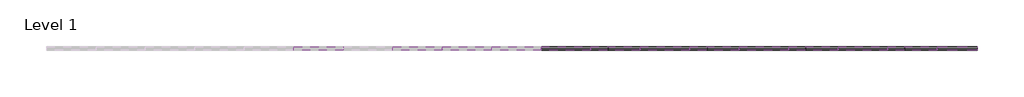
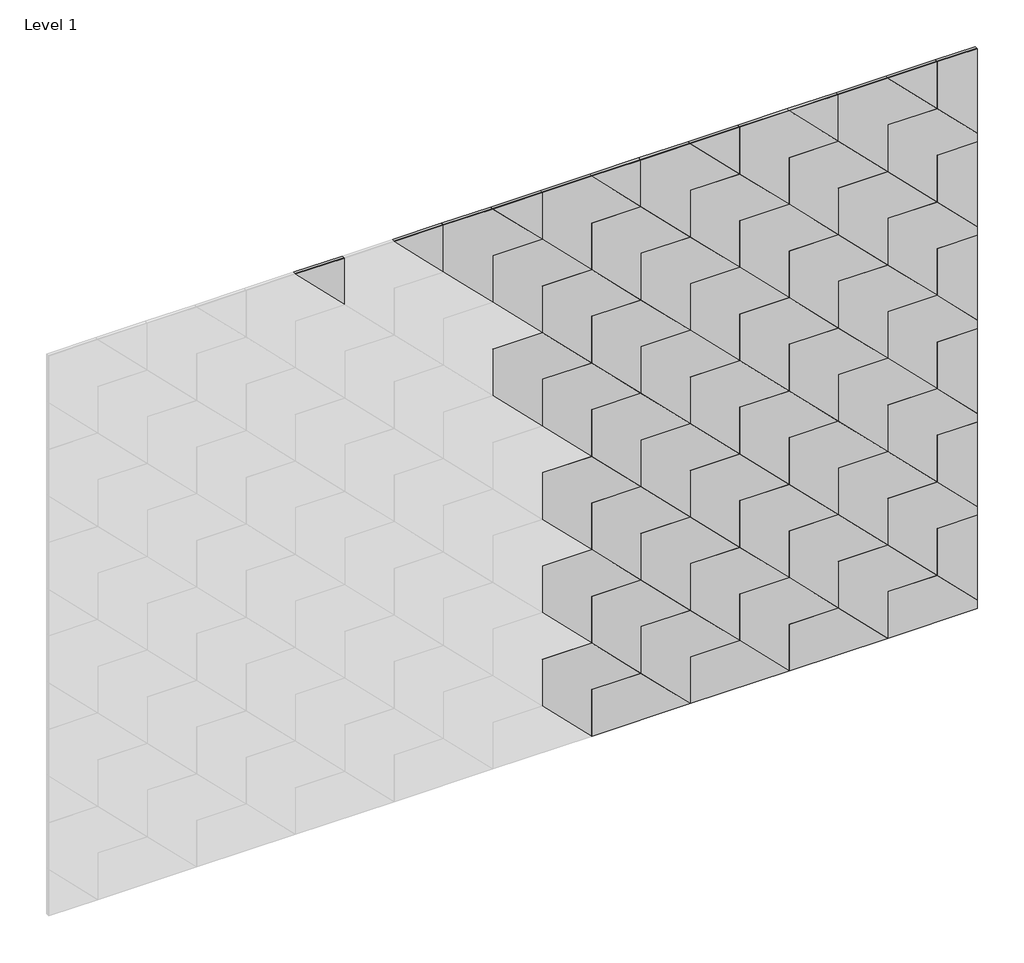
# One storey, part 2 of 2: 64 proxies.
"""IFC4 building model written with IfcOpenShell, lengths in millimetres."""

from ifc_helpers import new_model, si_unit, origin, place, context, project, spatial, transform, mapped, element, save
from components import dart_block_31c125ed, dart_block_a07508b9, dart_block_73d4f8a3, dart_block_11f7d1ca, dart_block_5e9ce8aa, dart_block_3be2393e

model = new_model("IFC4")

# Units and contexts
model_context = context("Model", 3, world=origin())
ifc_project = project(units=[si_unit("LENGTHUNIT", "METRE", prefix="MILLI")], contexts=[model_context])

# Site, building, storey
site = spatial("IfcSite", under=ifc_project)
building = spatial("IfcBuilding", under=site)
storey = spatial("IfcBuildingStorey", under=building, Name="Level 1", Elevation=0.0)

# Proxies
placement = place(None, origin())
dart_block_shape = dart_block_31c125ed(model_context)
element("IfcBuildingElementProxy", 1, Name="FilzFelt_Dart_Block : Dart Block", ObjectType="FilzFelt_Dart_Block : Dart Block", at=placement, inside=storey, context=model_context, shape_type="MappedRepresentation", body=[
    mapped(dart_block_shape, transform((7157.3428244, -10315.1339335, 769.244934), x_axis=(0.7071067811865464, 0.0, 0.7071067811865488), y_axis=(-0.7071067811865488, 0.0, 0.7071067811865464), z_axis=(0.0, -1.0, 0.0))),
])
element("IfcBuildingElementProxy", 2, Name="FilzFelt_Dart_Block : Dart Block", ObjectType="FilzFelt_Dart_Block : Dart Block", at=placement, inside=storey, context=model_context, shape_type="MappedRepresentation", body=[
    mapped(dart_block_shape, transform((7157.3428244, -10315.1339335, 1128.4551788), x_axis=(0.7071067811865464, 0.0, 0.7071067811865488), y_axis=(-0.7071067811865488, 0.0, 0.7071067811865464), z_axis=(0.0, -1.0, 0.0))),
])
element("IfcBuildingElementProxy", 3, Name="FilzFelt_Dart_Block : Dart Block", ObjectType="FilzFelt_Dart_Block : Dart Block", at=placement, inside=storey, context=model_context, shape_type="MappedRepresentation", body=[
    mapped(dart_block_shape, transform((7516.5530693, -10315.1339335, 769.244934), x_axis=(0.7071067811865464, 0.0, 0.7071067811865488), y_axis=(-0.7071067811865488, 0.0, 0.7071067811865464), z_axis=(0.0, -1.0, 0.0))),
])
element("IfcBuildingElementProxy", 4, Name="FilzFelt_Dart_Block : Dart Block", ObjectType="FilzFelt_Dart_Block : Dart Block", at=placement, inside=storey, context=model_context, shape_type="MappedRepresentation", body=[
    mapped(dart_block_shape, transform((7157.3428244, -10315.1339335, 1487.6654237), x_axis=(0.7071067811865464, 0.0, 0.7071067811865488), y_axis=(-0.7071067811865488, 0.0, 0.7071067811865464), z_axis=(0.0, -1.0, 0.0))),
])
element("IfcBuildingElementProxy", 5, Name="FilzFelt_Dart_Block : Dart Block", ObjectType="FilzFelt_Dart_Block : Dart Block", at=placement, inside=storey, context=model_context, shape_type="MappedRepresentation", body=[
    mapped(dart_block_shape, transform((7516.5530693, -10315.1339335, 1128.4551788), x_axis=(0.7071067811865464, 0.0, 0.7071067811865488), y_axis=(-0.7071067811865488, 0.0, 0.7071067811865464), z_axis=(0.0, -1.0, 0.0))),
])
element("IfcBuildingElementProxy", 6, Name="FilzFelt_Dart_Block : Dart Block", ObjectType="FilzFelt_Dart_Block : Dart Block", at=placement, inside=storey, context=model_context, shape_type="MappedRepresentation", body=[
    mapped(dart_block_shape, transform((7875.7633141, -10315.1339335, 769.244934), x_axis=(0.7071067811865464, 0.0, 0.7071067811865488), y_axis=(-0.7071067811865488, 0.0, 0.7071067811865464), z_axis=(0.0, -1.0, 0.0))),
])
element("IfcBuildingElementProxy", 7, Name="FilzFelt_Dart_Block : Dart Block", ObjectType="FilzFelt_Dart_Block : Dart Block", at=placement, inside=storey, context=model_context, shape_type="MappedRepresentation", body=[
    mapped(dart_block_shape, transform((7157.3428244, -10315.1339335, 1846.8756685), x_axis=(0.7071067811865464, 0.0, 0.7071067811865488), y_axis=(-0.7071067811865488, 0.0, 0.7071067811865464), z_axis=(0.0, -1.0, 0.0))),
])
element("IfcBuildingElementProxy", 8, Name="FilzFelt_Dart_Block : Dart Block", ObjectType="FilzFelt_Dart_Block : Dart Block", at=placement, inside=storey, context=model_context, shape_type="MappedRepresentation", body=[
    mapped(dart_block_shape, transform((7516.5530693, -10315.1339335, 1487.6654237), x_axis=(0.7071067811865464, 0.0, 0.7071067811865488), y_axis=(-0.7071067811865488, 0.0, 0.7071067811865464), z_axis=(0.0, -1.0, 0.0))),
])
element("IfcBuildingElementProxy", 9, Name="FilzFelt_Dart_Block : Dart Block", ObjectType="FilzFelt_Dart_Block : Dart Block", at=placement, inside=storey, context=model_context, shape_type="MappedRepresentation", body=[
    mapped(dart_block_shape, transform((7875.7633141, -10315.1339335, 1128.4551788), x_axis=(0.7071067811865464, 0.0, 0.7071067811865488), y_axis=(-0.7071067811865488, 0.0, 0.7071067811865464), z_axis=(0.0, -1.0, 0.0))),
])
element("IfcBuildingElementProxy", 10, Name="FilzFelt_Dart_Block : Dart Block", ObjectType="FilzFelt_Dart_Block : Dart Block", at=placement, inside=storey, context=model_context, shape_type="MappedRepresentation", body=[
    mapped(dart_block_shape, transform((8234.973559, -10315.1339335, 769.244934), x_axis=(0.7071067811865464, 0.0, 0.7071067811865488), y_axis=(-0.7071067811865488, 0.0, 0.7071067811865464), z_axis=(0.0, -1.0, 0.0))),
])
element("IfcBuildingElementProxy", 11, Name="FilzFelt_Dart_Block : Dart Block", ObjectType="FilzFelt_Dart_Block : Dart Block", at=placement, inside=storey, context=model_context, shape_type="MappedRepresentation", body=[
    mapped(dart_block_shape, transform((6798.1325796, -10315.1339335, 2565.2961582), x_axis=(0.7071067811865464, 0.0, 0.7071067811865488), y_axis=(-0.7071067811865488, 0.0, 0.7071067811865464), z_axis=(0.0, -1.0, 0.0))),
])
element("IfcBuildingElementProxy", 12, Name="FilzFelt_Dart_Block : Dart Block", ObjectType="FilzFelt_Dart_Block : Dart Block", at=placement, inside=storey, context=model_context, shape_type="MappedRepresentation", body=[
    mapped(dart_block_shape, transform((7157.3428244, -10315.1339335, 2206.0859133), x_axis=(0.7071067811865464, 0.0, 0.7071067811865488), y_axis=(-0.7071067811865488, 0.0, 0.7071067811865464), z_axis=(0.0, -1.0, 0.0))),
])
element("IfcBuildingElementProxy", 13, Name="FilzFelt_Dart_Block : Dart Block", ObjectType="FilzFelt_Dart_Block : Dart Block", at=placement, inside=storey, context=model_context, shape_type="MappedRepresentation", body=[
    mapped(dart_block_shape, transform((7516.5530693, -10315.1339335, 1846.8756685), x_axis=(0.7071067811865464, 0.0, 0.7071067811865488), y_axis=(-0.7071067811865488, 0.0, 0.7071067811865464), z_axis=(0.0, -1.0, 0.0))),
])
element("IfcBuildingElementProxy", 14, Name="FilzFelt_Dart_Block : Dart Block", ObjectType="FilzFelt_Dart_Block : Dart Block", at=placement, inside=storey, context=model_context, shape_type="MappedRepresentation", body=[
    mapped(dart_block_shape, transform((7875.7633141, -10315.1339335, 1487.6654237), x_axis=(0.7071067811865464, 0.0, 0.7071067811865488), y_axis=(-0.7071067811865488, 0.0, 0.7071067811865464), z_axis=(0.0, -1.0, 0.0))),
])
element("IfcBuildingElementProxy", 15, Name="FilzFelt_Dart_Block : Dart Block", ObjectType="FilzFelt_Dart_Block : Dart Block", at=placement, inside=storey, context=model_context, shape_type="MappedRepresentation", body=[
    mapped(dart_block_shape, transform((8234.973559, -10315.1339335, 1128.4551788), x_axis=(0.7071067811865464, 0.0, 0.7071067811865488), y_axis=(-0.7071067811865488, 0.0, 0.7071067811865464), z_axis=(0.0, -1.0, 0.0))),
])
element("IfcBuildingElementProxy", 16, Name="FilzFelt_Dart_Block : Dart Block", ObjectType="FilzFelt_Dart_Block : Dart Block", at=placement, inside=storey, context=model_context, shape_type="MappedRepresentation", body=[
    mapped(dart_block_shape, transform((7157.3428244, -10315.1339335, 2565.2961582), x_axis=(0.7071067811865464, 0.0, 0.7071067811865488), y_axis=(-0.7071067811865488, 0.0, 0.7071067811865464), z_axis=(0.0, -1.0, 0.0))),
])
element("IfcBuildingElementProxy", 17, Name="FilzFelt_Dart_Block : Dart Block", ObjectType="FilzFelt_Dart_Block : Dart Block", at=placement, inside=storey, context=model_context, shape_type="MappedRepresentation", body=[
    mapped(dart_block_shape, transform((7516.5530693, -10315.1339335, 2206.0859133), x_axis=(0.7071067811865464, 0.0, 0.7071067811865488), y_axis=(-0.7071067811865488, 0.0, 0.7071067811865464), z_axis=(0.0, -1.0, 0.0))),
])
element("IfcBuildingElementProxy", 18, Name="FilzFelt_Dart_Block : Dart Block", ObjectType="FilzFelt_Dart_Block : Dart Block", at=placement, inside=storey, context=model_context, shape_type="MappedRepresentation", body=[
    mapped(dart_block_shape, transform((7875.7633141, -10315.1339335, 1846.8756685), x_axis=(0.7071067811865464, 0.0, 0.7071067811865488), y_axis=(-0.7071067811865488, 0.0, 0.7071067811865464), z_axis=(0.0, -1.0, 0.0))),
])
element("IfcBuildingElementProxy", 19, Name="FilzFelt_Dart_Block : Dart Block", ObjectType="FilzFelt_Dart_Block : Dart Block", at=placement, inside=storey, context=model_context, shape_type="MappedRepresentation", body=[
    mapped(dart_block_shape, transform((8234.973559, -10315.1339335, 1487.6654237), x_axis=(0.7071067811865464, 0.0, 0.7071067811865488), y_axis=(-0.7071067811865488, 0.0, 0.7071067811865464), z_axis=(0.0, -1.0, 0.0))),
])
element("IfcBuildingElementProxy", 20, Name="FilzFelt_Dart_Block : Dart Block", ObjectType="FilzFelt_Dart_Block : Dart Block", at=placement, inside=storey, context=model_context, shape_type="MappedRepresentation", body=[
    mapped(dart_block_shape, transform((7516.5530693, -10315.1339335, 2565.2961582), x_axis=(0.7071067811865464, 0.0, 0.7071067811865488), y_axis=(-0.7071067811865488, 0.0, 0.7071067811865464), z_axis=(0.0, -1.0, 0.0))),
])
element("IfcBuildingElementProxy", 21, Name="FilzFelt_Dart_Block : Dart Block", ObjectType="FilzFelt_Dart_Block : Dart Block", at=placement, inside=storey, context=model_context, shape_type="MappedRepresentation", body=[
    mapped(dart_block_shape, transform((7875.7633141, -10315.1339335, 2206.0859133), x_axis=(0.7071067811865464, 0.0, 0.7071067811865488), y_axis=(-0.7071067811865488, 0.0, 0.7071067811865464), z_axis=(0.0, -1.0, 0.0))),
])
element("IfcBuildingElementProxy", 22, Name="FilzFelt_Dart_Block : Dart Block", ObjectType="FilzFelt_Dart_Block : Dart Block", at=placement, inside=storey, context=model_context, shape_type="MappedRepresentation", body=[
    mapped(dart_block_shape, transform((8234.973559, -10315.1339335, 1846.8756685), x_axis=(0.7071067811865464, 0.0, 0.7071067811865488), y_axis=(-0.7071067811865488, 0.0, 0.7071067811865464), z_axis=(0.0, -1.0, 0.0))),
])
element("IfcBuildingElementProxy", 23, Name="FilzFelt_Dart_Block : Dart Block", ObjectType="FilzFelt_Dart_Block : Dart Block", at=placement, inside=storey, context=model_context, shape_type="MappedRepresentation", body=[
    mapped(dart_block_shape, transform((7875.7633141, -10315.1339335, 2565.2961582), x_axis=(0.7071067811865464, 0.0, 0.7071067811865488), y_axis=(-0.7071067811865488, 0.0, 0.7071067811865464), z_axis=(0.0, -1.0, 0.0))),
])
element("IfcBuildingElementProxy", 24, Name="FilzFelt_Dart_Block : Dart Block", ObjectType="FilzFelt_Dart_Block : Dart Block", at=placement, inside=storey, context=model_context, shape_type="MappedRepresentation", body=[
    mapped(dart_block_shape, transform((8234.973559, -10315.1339335, 2206.0859133), x_axis=(0.7071067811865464, 0.0, 0.7071067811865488), y_axis=(-0.7071067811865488, 0.0, 0.7071067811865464), z_axis=(0.0, -1.0, 0.0))),
])
element("IfcBuildingElementProxy", 25, Name="FilzFelt_Dart_Block : Dart Block", ObjectType="FilzFelt_Dart_Block : Dart Block", at=placement, inside=storey, context=model_context, shape_type="MappedRepresentation", body=[
    mapped(dart_block_shape, transform((8234.973559, -10315.1339335, 2565.2961582), x_axis=(0.7071067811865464, 0.0, 0.7071067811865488), y_axis=(-0.7071067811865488, 0.0, 0.7071067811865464), z_axis=(0.0, -1.0, 0.0))),
])
element("IfcBuildingElementProxy", 26, Name="FilzFelt_Dart_Block : Dart Block", ObjectType="FilzFelt_Dart_Block : Dart Block", at=placement, inside=storey, context=model_context, shape_type="MappedRepresentation", body=[
    mapped(dart_block_shape, transform((7336.9479468, -10315.1339335, 948.8500564), x_axis=(0.7071067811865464, 0.0, 0.7071067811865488), y_axis=(-0.7071067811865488, 0.0, 0.7071067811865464), z_axis=(0.0, -1.0, 0.0))),
])
element("IfcBuildingElementProxy", 27, Name="FilzFelt_Dart_Block : Dart Block", ObjectType="FilzFelt_Dart_Block : Dart Block", at=placement, inside=storey, context=model_context, shape_type="MappedRepresentation", body=[
    mapped(dart_block_shape, transform((7336.9479468, -10315.1339335, 1308.0603012), x_axis=(0.7071067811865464, 0.0, 0.7071067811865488), y_axis=(-0.7071067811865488, 0.0, 0.7071067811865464), z_axis=(0.0, -1.0, 0.0))),
])
element("IfcBuildingElementProxy", 28, Name="FilzFelt_Dart_Block : Dart Block", ObjectType="FilzFelt_Dart_Block : Dart Block", at=placement, inside=storey, context=model_context, shape_type="MappedRepresentation", body=[
    mapped(dart_block_shape, transform((7696.1581917, -10315.1339335, 948.8500564), x_axis=(0.7071067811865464, 0.0, 0.7071067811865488), y_axis=(-0.7071067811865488, 0.0, 0.7071067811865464), z_axis=(0.0, -1.0, 0.0))),
])
element("IfcBuildingElementProxy", 29, Name="FilzFelt_Dart_Block : Dart Block", ObjectType="FilzFelt_Dart_Block : Dart Block", at=placement, inside=storey, context=model_context, shape_type="MappedRepresentation", body=[
    mapped(dart_block_shape, transform((6977.737702, -10315.1339335, 2026.4807909), x_axis=(0.7071067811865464, 0.0, 0.7071067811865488), y_axis=(-0.7071067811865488, 0.0, 0.7071067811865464), z_axis=(0.0, -1.0, 0.0))),
])
element("IfcBuildingElementProxy", 30, Name="FilzFelt_Dart_Block : Dart Block", ObjectType="FilzFelt_Dart_Block : Dart Block", at=placement, inside=storey, context=model_context, shape_type="MappedRepresentation", body=[
    mapped(dart_block_shape, transform((7336.9479468, -10315.1339335, 1667.2705461), x_axis=(0.7071067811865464, 0.0, 0.7071067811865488), y_axis=(-0.7071067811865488, 0.0, 0.7071067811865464), z_axis=(0.0, -1.0, 0.0))),
])
element("IfcBuildingElementProxy", 31, Name="FilzFelt_Dart_Block : Dart Block", ObjectType="FilzFelt_Dart_Block : Dart Block", at=placement, inside=storey, context=model_context, shape_type="MappedRepresentation", body=[
    mapped(dart_block_shape, transform((7696.1581917, -10315.1339335, 1308.0603012), x_axis=(0.7071067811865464, 0.0, 0.7071067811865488), y_axis=(-0.7071067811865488, 0.0, 0.7071067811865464), z_axis=(0.0, -1.0, 0.0))),
])
element("IfcBuildingElementProxy", 32, Name="FilzFelt_Dart_Block : Dart Block", ObjectType="FilzFelt_Dart_Block : Dart Block", at=placement, inside=storey, context=model_context, shape_type="MappedRepresentation", body=[
    mapped(dart_block_shape, transform((8055.3684365, -10315.1339335, 948.8500564), x_axis=(0.7071067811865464, 0.0, 0.7071067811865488), y_axis=(-0.7071067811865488, 0.0, 0.7071067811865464), z_axis=(0.0, -1.0, 0.0))),
])
element("IfcBuildingElementProxy", 33, Name="FilzFelt_Dart_Block : Dart Block", ObjectType="FilzFelt_Dart_Block : Dart Block", at=placement, inside=storey, context=model_context, shape_type="MappedRepresentation", body=[
    mapped(dart_block_shape, transform((6977.737702, -10315.1339335, 2385.6910358), x_axis=(0.7071067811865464, 0.0, 0.7071067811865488), y_axis=(-0.7071067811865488, 0.0, 0.7071067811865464), z_axis=(0.0, -1.0, 0.0))),
])
element("IfcBuildingElementProxy", 34, Name="FilzFelt_Dart_Block : Dart Block", ObjectType="FilzFelt_Dart_Block : Dart Block", at=placement, inside=storey, context=model_context, shape_type="MappedRepresentation", body=[
    mapped(dart_block_shape, transform((7336.9479468, -10315.1339335, 2026.4807909), x_axis=(0.7071067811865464, 0.0, 0.7071067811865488), y_axis=(-0.7071067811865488, 0.0, 0.7071067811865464), z_axis=(0.0, -1.0, 0.0))),
])
element("IfcBuildingElementProxy", 35, Name="FilzFelt_Dart_Block : Dart Block", ObjectType="FilzFelt_Dart_Block : Dart Block", at=placement, inside=storey, context=model_context, shape_type="MappedRepresentation", body=[
    mapped(dart_block_shape, transform((7696.1581917, -10315.1339335, 1667.2705461), x_axis=(0.7071067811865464, 0.0, 0.7071067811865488), y_axis=(-0.7071067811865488, 0.0, 0.7071067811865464), z_axis=(0.0, -1.0, 0.0))),
])
element("IfcBuildingElementProxy", 36, Name="FilzFelt_Dart_Block : Dart Block", ObjectType="FilzFelt_Dart_Block : Dart Block", at=placement, inside=storey, context=model_context, shape_type="MappedRepresentation", body=[
    mapped(dart_block_shape, transform((8055.3684365, -10315.1339335, 1308.0603012), x_axis=(0.7071067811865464, 0.0, 0.7071067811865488), y_axis=(-0.7071067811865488, 0.0, 0.7071067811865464), z_axis=(0.0, -1.0, 0.0))),
])
element("IfcBuildingElementProxy", 37, Name="FilzFelt_Dart_Block : Dart Block", ObjectType="FilzFelt_Dart_Block : Dart Block", at=placement, inside=storey, context=model_context, shape_type="MappedRepresentation", body=[
    mapped(dart_block_shape, transform((7336.9479468, -10315.1339335, 2385.6910358), x_axis=(0.7071067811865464, 0.0, 0.7071067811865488), y_axis=(-0.7071067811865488, 0.0, 0.7071067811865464), z_axis=(0.0, -1.0, 0.0))),
])
element("IfcBuildingElementProxy", 38, Name="FilzFelt_Dart_Block : Dart Block", ObjectType="FilzFelt_Dart_Block : Dart Block", at=placement, inside=storey, context=model_context, shape_type="MappedRepresentation", body=[
    mapped(dart_block_shape, transform((7696.1581917, -10315.1339335, 2026.4807909), x_axis=(0.7071067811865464, 0.0, 0.7071067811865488), y_axis=(-0.7071067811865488, 0.0, 0.7071067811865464), z_axis=(0.0, -1.0, 0.0))),
])
element("IfcBuildingElementProxy", 39, Name="FilzFelt_Dart_Block : Dart Block", ObjectType="FilzFelt_Dart_Block : Dart Block", at=placement, inside=storey, context=model_context, shape_type="MappedRepresentation", body=[
    mapped(dart_block_shape, transform((8055.3684365, -10315.1339335, 1667.2705461), x_axis=(0.7071067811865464, 0.0, 0.7071067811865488), y_axis=(-0.7071067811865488, 0.0, 0.7071067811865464), z_axis=(0.0, -1.0, 0.0))),
])
element("IfcBuildingElementProxy", 40, Name="FilzFelt_Dart_Block : Dart Block", ObjectType="FilzFelt_Dart_Block : Dart Block", at=placement, inside=storey, context=model_context, shape_type="MappedRepresentation", body=[
    mapped(dart_block_shape, transform((7696.1581917, -10315.1339335, 2385.6910358), x_axis=(0.7071067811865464, 0.0, 0.7071067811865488), y_axis=(-0.7071067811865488, 0.0, 0.7071067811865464), z_axis=(0.0, -1.0, 0.0))),
])
element("IfcBuildingElementProxy", 41, Name="FilzFelt_Dart_Block : Dart Block", ObjectType="FilzFelt_Dart_Block : Dart Block", at=placement, inside=storey, context=model_context, shape_type="MappedRepresentation", body=[
    mapped(dart_block_shape, transform((8055.3684365, -10315.1339335, 2026.4807909), x_axis=(0.7071067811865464, 0.0, 0.7071067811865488), y_axis=(-0.7071067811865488, 0.0, 0.7071067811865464), z_axis=(0.0, -1.0, 0.0))),
])
element("IfcBuildingElementProxy", 42, Name="FilzFelt_Dart_Block : Dart Block", ObjectType="FilzFelt_Dart_Block : Dart Block", at=placement, inside=storey, context=model_context, shape_type="MappedRepresentation", body=[
    mapped(dart_block_shape, transform((8055.3684365, -10315.1339335, 2385.6910358), x_axis=(0.7071067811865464, 0.0, 0.7071067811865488), y_axis=(-0.7071067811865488, 0.0, 0.7071067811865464), z_axis=(0.0, -1.0, 0.0))),
])
dart_block_2_shape = dart_block_a07508b9(model_context)
element("IfcBuildingElementProxy", 43, Name="FilzFelt_Dart_Block : Dart Block", ObjectType="FilzFelt_Dart_Block : Dart Block", at=placement, inside=storey, context=model_context, shape_type="MappedRepresentation", body=[
    mapped(dart_block_2_shape, transform((7336.9479468, -10315.1339335, 589.6398115), x_axis=(0.7071067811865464, 0.0, 0.7071067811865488), y_axis=(-0.7071067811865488, 0.0, 0.7071067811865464), z_axis=(0.0, -1.0, 0.0))),
])
element("IfcBuildingElementProxy", 44, Name="FilzFelt_Dart_Block : Dart Block", ObjectType="FilzFelt_Dart_Block : Dart Block", at=placement, inside=storey, context=model_context, shape_type="MappedRepresentation", body=[
    mapped(dart_block_2_shape, transform((7696.1581917, -10315.1339335, 589.6398115), x_axis=(0.7071067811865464, 0.0, 0.7071067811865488), y_axis=(-0.7071067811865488, 0.0, 0.7071067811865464), z_axis=(0.0, -1.0, 0.0))),
])
element("IfcBuildingElementProxy", 45, Name="FilzFelt_Dart_Block : Dart Block", ObjectType="FilzFelt_Dart_Block : Dart Block", at=placement, inside=storey, context=model_context, shape_type="MappedRepresentation", body=[
    mapped(dart_block_2_shape, transform((8055.3684365, -10315.1339335, 589.6398115), x_axis=(0.7071067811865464, 0.0, 0.7071067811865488), y_axis=(-0.7071067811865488, 0.0, 0.7071067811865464), z_axis=(0.0, -1.0, 0.0))),
])
dart_block_3_shape = dart_block_73d4f8a3(model_context)
element("IfcBuildingElementProxy", 46, Name="FilzFelt_Dart_Block : Dart Block", ObjectType="FilzFelt_Dart_Block : Dart Block", at=placement, inside=storey, context=model_context, shape_type="MappedRepresentation", body=[
    mapped(dart_block_3_shape, transform((8414.5786814, -10315.1339335, 2385.6910358), x_axis=(0.7071067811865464, 0.0, 0.7071067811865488), y_axis=(-0.7071067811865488, 0.0, 0.7071067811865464), z_axis=(0.0, -1.0, 0.0))),
])
element("IfcBuildingElementProxy", 47, Name="FilzFelt_Dart_Block : Dart Block", ObjectType="FilzFelt_Dart_Block : Dart Block", at=placement, inside=storey, context=model_context, shape_type="MappedRepresentation", body=[
    mapped(dart_block_3_shape, transform((8414.5786814, -10315.1339335, 2026.4807909), x_axis=(0.7071067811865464, 0.0, 0.7071067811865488), y_axis=(-0.7071067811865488, 0.0, 0.7071067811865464), z_axis=(0.0, -1.0, 0.0))),
])
element("IfcBuildingElementProxy", 48, Name="FilzFelt_Dart_Block : Dart Block", ObjectType="FilzFelt_Dart_Block : Dart Block", at=placement, inside=storey, context=model_context, shape_type="MappedRepresentation", body=[
    mapped(dart_block_3_shape, transform((8414.5786814, -10315.1339335, 1667.2705461), x_axis=(0.7071067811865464, 0.0, 0.7071067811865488), y_axis=(-0.7071067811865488, 0.0, 0.7071067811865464), z_axis=(0.0, -1.0, 0.0))),
])
element("IfcBuildingElementProxy", 49, Name="FilzFelt_Dart_Block : Dart Block", ObjectType="FilzFelt_Dart_Block : Dart Block", at=placement, inside=storey, context=model_context, shape_type="MappedRepresentation", body=[
    mapped(dart_block_3_shape, transform((8414.5786814, -10315.1339335, 1308.0603012), x_axis=(0.7071067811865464, 0.0, 0.7071067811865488), y_axis=(-0.7071067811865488, 0.0, 0.7071067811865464), z_axis=(0.0, -1.0, 0.0))),
])
element("IfcBuildingElementProxy", 50, Name="FilzFelt_Dart_Block : Dart Block", ObjectType="FilzFelt_Dart_Block : Dart Block", at=placement, inside=storey, context=model_context, shape_type="MappedRepresentation", body=[
    mapped(dart_block_3_shape, transform((8414.5786814, -10315.1339335, 948.8500564), x_axis=(0.7071067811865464, 0.0, 0.7071067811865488), y_axis=(-0.7071067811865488, 0.0, 0.7071067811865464), z_axis=(0.0, -1.0, 0.0))),
])
dart_block_4_shape = dart_block_11f7d1ca(model_context)
element("IfcBuildingElementProxy", 51, Name="FilzFelt_Dart_Block : Dart Block", ObjectType="FilzFelt_Dart_Block : Dart Block", at=placement, inside=storey, context=model_context, shape_type="MappedRepresentation", body=[
    mapped(dart_block_4_shape, transform((8594.1838038, -10315.1339335, 2206.0859133), x_axis=(0.7071067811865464, 0.0, 0.7071067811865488), y_axis=(-0.7071067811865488, 0.0, 0.7071067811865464), z_axis=(0.0, -1.0, 0.0))),
])
element("IfcBuildingElementProxy", 52, Name="FilzFelt_Dart_Block : Dart Block", ObjectType="FilzFelt_Dart_Block : Dart Block", at=placement, inside=storey, context=model_context, shape_type="MappedRepresentation", body=[
    mapped(dart_block_4_shape, transform((8594.1838038, -10315.1339335, 2565.2961582), x_axis=(0.7071067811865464, 0.0, 0.7071067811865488), y_axis=(-0.7071067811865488, 0.0, 0.7071067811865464), z_axis=(0.0, -1.0, 0.0))),
])
element("IfcBuildingElementProxy", 53, Name="FilzFelt_Dart_Block : Dart Block", ObjectType="FilzFelt_Dart_Block : Dart Block", at=placement, inside=storey, context=model_context, shape_type="MappedRepresentation", body=[
    mapped(dart_block_4_shape, transform((8594.1838038, -10315.1339335, 1846.8756685), x_axis=(0.7071067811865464, 0.0, 0.7071067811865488), y_axis=(-0.7071067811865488, 0.0, 0.7071067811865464), z_axis=(0.0, -1.0, 0.0))),
])
element("IfcBuildingElementProxy", 54, Name="FilzFelt_Dart_Block : Dart Block", ObjectType="FilzFelt_Dart_Block : Dart Block", at=placement, inside=storey, context=model_context, shape_type="MappedRepresentation", body=[
    mapped(dart_block_4_shape, transform((8594.1838038, -10315.1339335, 1487.6654237), x_axis=(0.7071067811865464, 0.0, 0.7071067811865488), y_axis=(-0.7071067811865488, 0.0, 0.7071067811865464), z_axis=(0.0, -1.0, 0.0))),
])
element("IfcBuildingElementProxy", 55, Name="FilzFelt_Dart_Block : Dart Block", ObjectType="FilzFelt_Dart_Block : Dart Block", at=placement, inside=storey, context=model_context, shape_type="MappedRepresentation", body=[
    mapped(dart_block_4_shape, transform((8594.1838038, -10315.1339335, 1128.4551788), x_axis=(0.7071067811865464, 0.0, 0.7071067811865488), y_axis=(-0.7071067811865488, 0.0, 0.7071067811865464), z_axis=(0.0, -1.0, 0.0))),
])
element("IfcBuildingElementProxy", 56, Name="FilzFelt_Dart_Block : Dart Block", ObjectType="FilzFelt_Dart_Block : Dart Block", at=placement, inside=storey, context=model_context, shape_type="MappedRepresentation", body=[
    mapped(dart_block_4_shape, transform((8594.1838038, -10315.1339335, 769.244934), x_axis=(0.7071067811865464, 0.0, 0.7071067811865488), y_axis=(-0.7071067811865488, 0.0, 0.7071067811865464), z_axis=(0.0, -1.0, 0.0))),
])
dart_block_5_shape = dart_block_5e9ce8aa(model_context)
element("IfcBuildingElementProxy", 57, Name="FilzFelt_Dart_Block : Dart Block", ObjectType="FilzFelt_Dart_Block : Dart Block", at=placement, inside=storey, context=model_context, shape_type="MappedRepresentation", body=[
    mapped(dart_block_5_shape, transform((6259.3172123, -10315.1339335, 2744.9012806), x_axis=(0.7071067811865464, 0.0, 0.7071067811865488), y_axis=(-0.7071067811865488, 0.0, 0.7071067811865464), z_axis=(0.0, -1.0, 0.0))),
])
element("IfcBuildingElementProxy", 58, Name="FilzFelt_Dart_Block : Dart Block", ObjectType="FilzFelt_Dart_Block : Dart Block", at=placement, inside=storey, context=model_context, shape_type="MappedRepresentation", body=[
    mapped(dart_block_5_shape, transform((6618.5274572, -10315.1339335, 2744.9012806), x_axis=(0.7071067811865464, 0.0, 0.7071067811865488), y_axis=(-0.7071067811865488, 0.0, 0.7071067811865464), z_axis=(0.0, -1.0, 0.0))),
])
element("IfcBuildingElementProxy", 59, Name="FilzFelt_Dart_Block : Dart Block", ObjectType="FilzFelt_Dart_Block : Dart Block", at=placement, inside=storey, context=model_context, shape_type="MappedRepresentation", body=[
    mapped(dart_block_5_shape, transform((6977.737702, -10315.1339335, 2744.9012806), x_axis=(0.7071067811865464, 0.0, 0.7071067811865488), y_axis=(-0.7071067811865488, 0.0, 0.7071067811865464), z_axis=(0.0, -1.0, 0.0))),
])
element("IfcBuildingElementProxy", 60, Name="FilzFelt_Dart_Block : Dart Block", ObjectType="FilzFelt_Dart_Block : Dart Block", at=placement, inside=storey, context=model_context, shape_type="MappedRepresentation", body=[
    mapped(dart_block_5_shape, transform((7336.9479468, -10315.1339335, 2744.9012806), x_axis=(0.7071067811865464, 0.0, 0.7071067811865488), y_axis=(-0.7071067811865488, 0.0, 0.7071067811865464), z_axis=(0.0, -1.0, 0.0))),
])
element("IfcBuildingElementProxy", 61, Name="FilzFelt_Dart_Block : Dart Block", ObjectType="FilzFelt_Dart_Block : Dart Block", at=placement, inside=storey, context=model_context, shape_type="MappedRepresentation", body=[
    mapped(dart_block_5_shape, transform((7696.1581917, -10315.1339335, 2744.9012806), x_axis=(0.7071067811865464, 0.0, 0.7071067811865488), y_axis=(-0.7071067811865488, 0.0, 0.7071067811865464), z_axis=(0.0, -1.0, 0.0))),
])
element("IfcBuildingElementProxy", 62, Name="FilzFelt_Dart_Block : Dart Block", ObjectType="FilzFelt_Dart_Block : Dart Block", at=placement, inside=storey, context=model_context, shape_type="MappedRepresentation", body=[
    mapped(dart_block_5_shape, transform((8055.3684365, -10315.1339335, 2744.9012806), x_axis=(0.7071067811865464, 0.0, 0.7071067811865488), y_axis=(-0.7071067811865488, 0.0, 0.7071067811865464), z_axis=(0.0, -1.0, 0.0))),
])
element("IfcBuildingElementProxy", 63, Name="FilzFelt_Dart_Block : Dart Block", ObjectType="FilzFelt_Dart_Block : Dart Block", at=placement, inside=storey, context=model_context, shape_type="MappedRepresentation", body=[
    mapped(dart_block_5_shape, transform((8414.5786814, -10315.1339335, 2744.9012806), x_axis=(0.7071067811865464, 0.0, 0.7071067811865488), y_axis=(-0.7071067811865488, 0.0, 0.7071067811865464), z_axis=(0.0, -1.0, 0.0))),
])
dart_block_6_shape = dart_block_3be2393e(model_context)
element("IfcBuildingElementProxy", 64, Name="FilzFelt_Dart_Block : Dart Block", ObjectType="FilzFelt_Dart_Block : Dart Block", at=placement, inside=storey, context=model_context, shape_type="MappedRepresentation", body=[
    mapped(dart_block_6_shape, transform((8414.5786814, -10315.1339335, 589.6398115), x_axis=(0.7071067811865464, 0.0, 0.7071067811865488), y_axis=(-0.7071067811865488, 0.0, 0.7071067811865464), z_axis=(0.0, -1.0, 0.0))),
])

save(model, "model.ifc")
